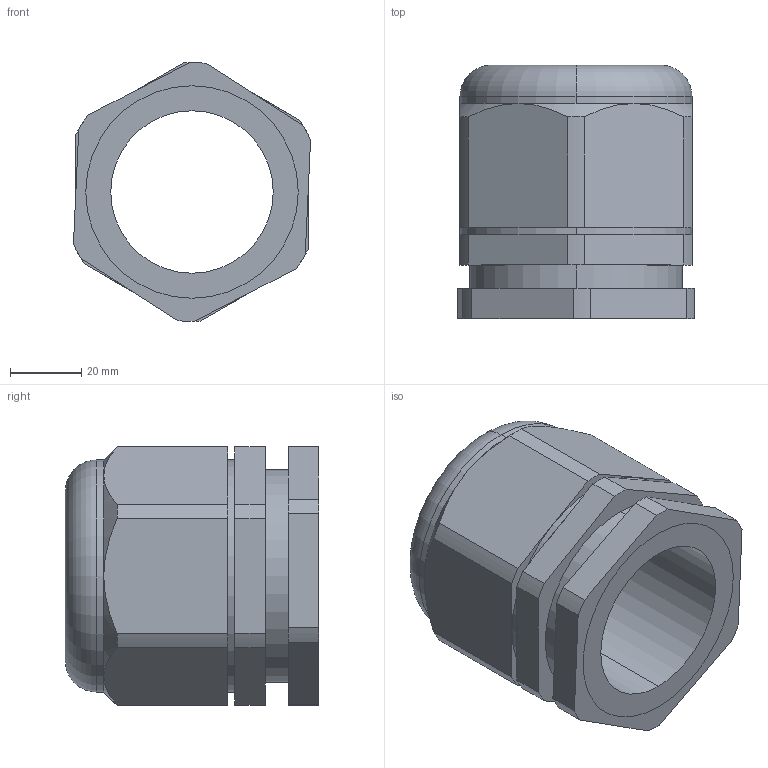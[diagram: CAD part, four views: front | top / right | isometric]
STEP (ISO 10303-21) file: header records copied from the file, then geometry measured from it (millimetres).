
FILE_DESCRIPTION (( 'STEP AP214' ), '1' );
FILE_NAME ('Ñàëüíèê PG48-(Dïðîâîäíèêà 36-44ìì)-IP54.STEP', '2023-02-20T06:50:15', ( '' ), ( '' ), 'SwSTEP 2.0', 'SolidWorks 2018', '' );
FILE_SCHEMA (( 'AUTOMOTIVE_DESIGN' ));
Length unit declared in the file: millimetre
Products named in the file (3): Ñàëüíèê PG48-(Dïðîâîäíèêà 36-44ìì)-IP54; Ñàëüíèê PG48-(Dïðîâîäíèêà 36-44ìì)-IP54 äåòàëü; Ñàëüíèê PG48-(Dïðîâîäíèêà 36-44ìì)-IP54 ãàéêà
Assembly tree (2 placements, depth 2):
  Ñàëüíèê PG48-(Dïðîâîäíèêà 36-44ìì)-IP54
    Ñàëüíèê PG48-(Dïðîâîäíèêà 36-44ìì)-IP54 äåòàëü
    Ñàëüíèê PG48-(Dïðîâîäíèêà 36-44ìì)-IP54 ãàéêà
Bounding box: 66.41 x 71 x 72.49 mm (x, y, z)
Volume: 129780.8 mm3; surface area: 33953 mm2
Topology: 2 solids, 2 shells, 75 faces, 188 edges, 118 vertices
Faces by surface type: plane 35, cylinder 31, cone 7, torus 2
Entity records: 2448 total; most frequent: CARTESIAN_POINT 490, DIRECTION 420, ORIENTED_EDGE 376, EDGE_CURVE 188, AXIS2_PLACEMENT_3D 164, VERTEX_POINT 118, VECTOR 92, LINE 92
